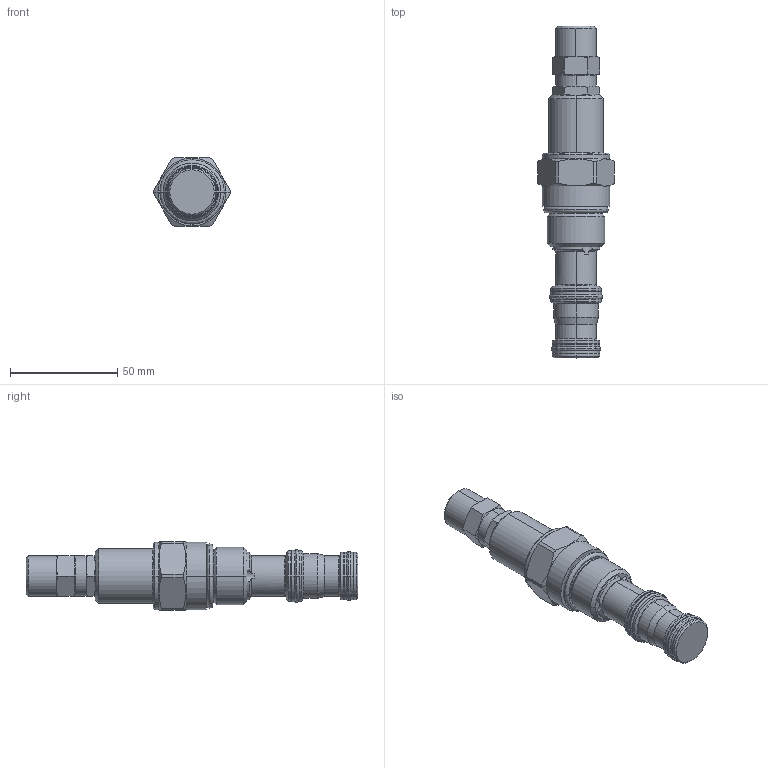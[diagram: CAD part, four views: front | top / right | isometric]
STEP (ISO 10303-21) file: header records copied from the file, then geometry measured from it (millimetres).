
FILE_DESCRIPTION((''),'2;1');
FILE_NAME('PRT0013','2009-03-25T',('JCS'),(''),'PRO/ENGINEER BY PARAMETRIC TECHNOLOGY CORPORATION, 2008510','PRO/ENGINEER BY PARAMETRIC TECHNOLOGY CORPORATION, 2008510','');
FILE_SCHEMA(('CONFIG_CONTROL_DESIGN'));
Length unit declared in the file: inch
Products named in the file (1): PRT0013
Bounding box: 35.81 x 154.5 x 31.75 mm (x, y, z)
Volume: 71344.7 mm3; surface area: 15816.1 mm2
Topology: 4 solids, 4 shells, 196 faces, 433 edges, 250 vertices
Faces by surface type: cone 55, cylinder 52, plane 34, torus 31, revolution 24
Entity records: 7000 total; most frequent: CARTESIAN_POINT 2655, DIRECTION 940, ORIENTED_EDGE 866, EDGE_CURVE 433, AXIS2_PLACEMENT_3D 401, VERTEX_POINT 250, CIRCLE 229, EDGE_LOOP 207
